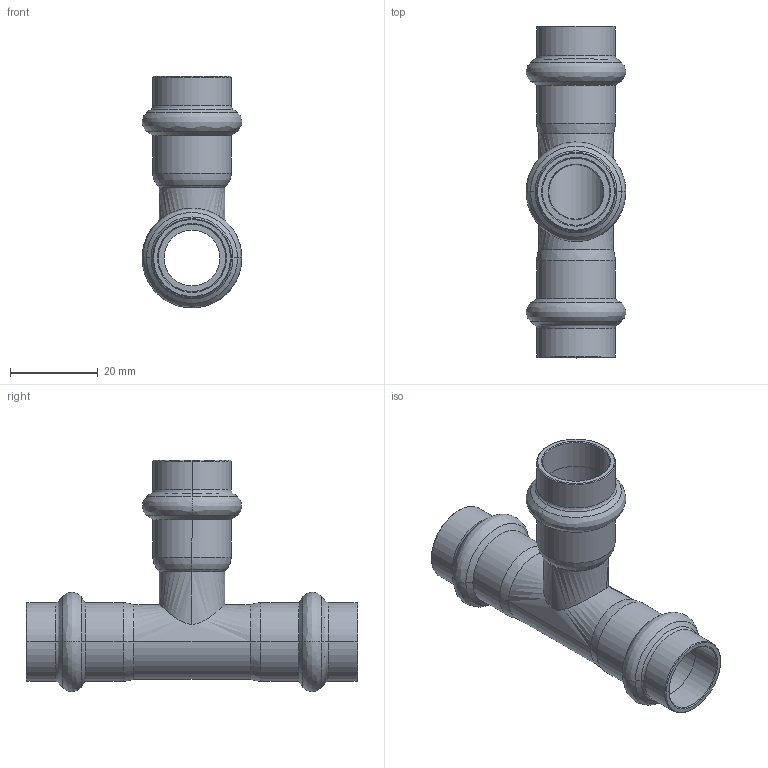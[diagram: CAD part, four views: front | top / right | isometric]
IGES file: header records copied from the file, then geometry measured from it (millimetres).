
Start section: Elysium IGES Interface
Global section: file name: C:\Users\Wallenburg\Desktop\3d modellen sudo\S-Pr VP\SP6130V\6130VW15.igs; native system: CoCreate Modeling 17.00A  17-Jun-2010; preprocessor: CoCreate IGES_3D V2.2; author: Unknown; organization: Unknown; date: 20130116.093250; units: millimetre
Bounding box: 22.68 x 75.51 x 52.7 mm (x, y, z)
Volume: 9121 mm3; surface area: 11930.6 mm2
Topology: 1 solids, 1 shells, 124 faces, 254 edges, 138 vertices
Faces by surface type: bspline 124
